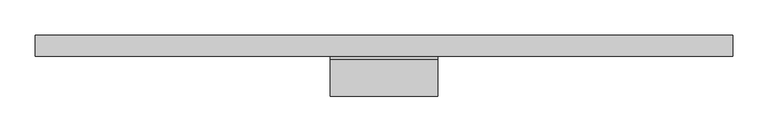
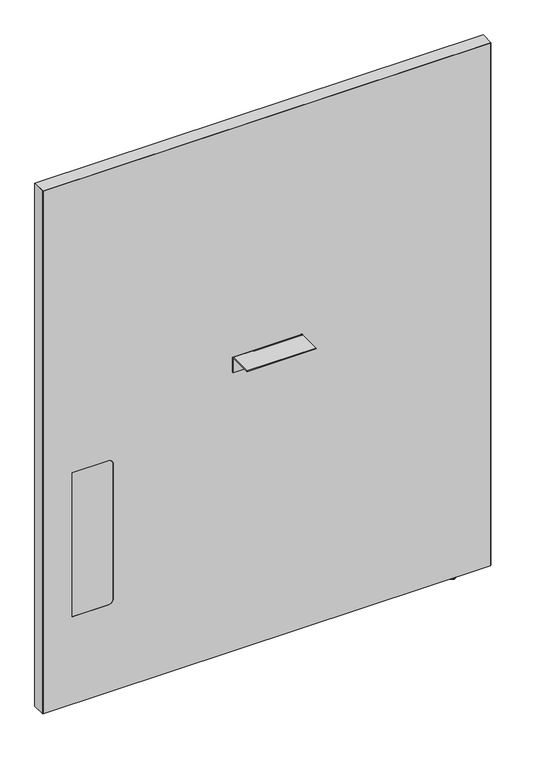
"""IFC4 building model written with IfcOpenShell, lengths in millimetres: furniture geometry, Steelcase - Answer Solution - Boundary Screen - Straight - Single Sided : 48H x 39W."""

from ifc_helpers import new_model, si_unit, point, frame, frame_2d, origin, place, context, project, spatial, polyline, circle_curve, ellipse_curve, trimmed, segment, composite_curve, outline, extrude, source, transform, mapped, element, save
from ifc_brep_helpers import plane_surface, cylinder_surface, revolved_surface, advanced_brep


def furniture_d116ad74(model_context):
    return source(origin(), model_context, "Body", "SolidModel", [
        extrude(outline(composite_curve([segment(polyline([(-86.8398151, 696.4680019), (-86.8398151, 698.5), (-34.9450855, 698.5)]), True, "CONTINUOUS"), segment(trimmed(circle_curve(frame_2d((-34.9450855, 693.2447477)), 5.2552523), [point((-34.9450855, 698.5))], [point((-29.6898332, 693.2447477))], False, "CARTESIAN"), True, "CONTINUOUS"), segment(polyline([(-29.6898332, 693.2447477), (-29.6898332, 660.4), (-31.7218162, 660.4), (-31.7218162, 693.0058743)]), True, "CONTINUOUS"), segment(trimmed(circle_curve(frame_2d((-35.1839438, 693.0058743)), 3.4621276), [point((-31.7218162, 693.0058743))], [point((-35.1839438, 696.4680019))], True, "CARTESIAN"), True, "CONTINUOUS"), segment(polyline([(-35.1839438, 696.4680019), (-86.8398151, 696.4680019)]), True, "CONTINUOUS")], self_intersect=False)), frame((-227.3808593, 0.0, 0.0), z_axis=(1.0, 0.0, 0.0), x_axis=(0.0, 1.0, 0.0)), (0.0, 0.0, 1.0), 152.4000969),
        advanced_brep(
        [(266.9286488, -23.7588726, 9.9059849), (266.9286488, -5.9309607, 9.9059849), (266.9286488, -14.8449166, 9.9059849), (266.9286488, -23.7588726, 2.9673238), (266.9286488, -5.9309607, 2.9673238), (266.9286488, -22.7915354, 2.9673238), (266.9286488, -6.8982978, 2.9673238), (266.9286488, -22.7915354, 1.6569081), (266.9286488, -6.8982978, 1.6569081), (266.9286488, -21.1346274, 0.0), (266.9286488, -8.5552059, 0.0), (266.9286488, -14.8449166, 0.0)],
        [
            (0, 1, circle_curve(frame((266.9286488, -14.8449166, 9.9059849), z_axis=(0.0, 0.0, 1.0), x_axis=(0.0, 1.0, 0.0)), 8.913956)),
            (1, 2),
            (2, 0),
            (1, 0, circle_curve(frame((266.9286488, -14.8449166, 9.9059849), z_axis=(0.0, 0.0, 1.0), x_axis=(0.0, 1.0, 0.0)), 8.913956)),
            (3, 4, circle_curve(frame((266.9286488, -14.8449166, 2.9673238), z_axis=(0.0, 0.0, 1.0), x_axis=(0.0, 1.0, 0.0)), 8.913956)),
            (4, 1),
            (0, 3),
            (4, 3, circle_curve(frame((266.9286488, -14.8449166, 2.9673238), z_axis=(0.0, 0.0, 1.0), x_axis=(0.0, 1.0, 0.0)), 8.913956)),
            (5, 6, circle_curve(frame((266.9286488, -14.8449166, 2.9673238), z_axis=(0.0, 0.0, 1.0), x_axis=(0.0, 1.0, 0.0)), 7.9466188)),
            (6, 4),
            (3, 5),
            (6, 5, circle_curve(frame((266.9286488, -14.8449166, 2.9673238), z_axis=(0.0, 0.0, 1.0), x_axis=(0.0, 1.0, 0.0)), 7.9466188)),
            (7, 8, circle_curve(frame((266.9286488, -14.8449166, 1.6569081), z_axis=(0.0, 0.0, 1.0), x_axis=(0.0, 1.0, 0.0)), 7.9466188)),
            (8, 6),
            (5, 7),
            (8, 7, circle_curve(frame((266.9286488, -14.8449166, 1.6569081), z_axis=(0.0, 0.0, 1.0), x_axis=(0.0, 1.0, 0.0)), 7.9466188)),
            (9, 10, circle_curve(frame((266.9286488, -14.8449166, 0.0), z_axis=(0.0, 0.0, 1.0), x_axis=(0.0, 1.0, 0.0)), 6.2897107)),
            (10, 8, circle_curve(frame((266.9286488, -8.5552059, 1.6569081), z_axis=(1.0, 0.0, 0.0), x_axis=(0.0, 1.0, 0.0)), 1.6569081)),
            (7, 9, circle_curve(frame((266.9286488, -21.1346274, 1.6569081), z_axis=(1.0, 0.0, 0.0), x_axis=(0.0, -1.0, 0.0)), 1.6569081)),
            (10, 9, circle_curve(frame((266.9286488, -14.8449166, 0.0), z_axis=(0.0, 0.0, 1.0), x_axis=(0.0, 1.0, 0.0)), 6.2897107)),
            (11, 10),
            (9, 11),
        ],
        [
            plane_surface(frame((266.9286488, -14.8449166, 9.9059849), z_axis=(0.0, 0.0, 1.0), x_axis=(0.0, 1.0, 0.0))),
            cylinder_surface(frame((266.9286488, -14.8449166, 9.9059849), z_axis=(0.0, 0.0, -1.0), x_axis=(0.0, 1.0, 0.0)), 8.913956),
            plane_surface(frame((266.9286488, -14.8449166, 2.9673238), z_axis=(0.0, 0.0, -1.0), x_axis=(0.0, 1.0, 0.0))),
            cylinder_surface(frame((266.9286488, -14.8449166, 9.9059849), z_axis=(0.0, 0.0, -1.0), x_axis=(0.0, 1.0, 0.0)), 7.9466188),
            revolved_surface(trimmed(ellipse_curve(frame((266.9286488, -8.5552059, 1.6569081), z_axis=(-1.0, 0.0, 0.0), x_axis=(0.0, 1.0, 0.0)), 1.6569081, 1.6569081), [point((266.9286488, -6.8982978, 1.6569081))], [point((266.9286488, -8.5552059, 0.0))], True, "CARTESIAN"), (266.9286488, -14.8449166, 9.9059849), (0.0, 0.0, -1.0)),
            plane_surface(frame((266.9286488, -14.8449166, 0.0), z_axis=(0.0, 0.0, -1.0), x_axis=(0.0, 1.0, 0.0))),
        ],
        [
            (0, [[1, 2, 3]]),
            (0, [[4, -3, -2]]),
            (1, [[5, 6, -1, 7]]),
            (1, [[8, -7, -4, -6]]),
            (2, [[9, 10, -5, 11]]),
            (2, [[12, -11, -8, -10]]),
            (3, [[13, 14, -9, 15]]),
            (3, [[16, -15, -12, -14]]),
            (4, [[17, 18, -13, 19]]),
            (4, [[20, -19, -16, -18]]),
            (5, [[21, -17, 22]]),
            (5, [[-22, -20, -21]]),
        ],
    ),
        advanced_brep(
        [(343.0780168, 0.0, 1229.142118), (343.0780168, 0.0, 9.9059849), (-645.4902221, 0.0, 9.9059849), (-645.4902221, 0.0, 1229.142118), (343.0780168, -29.6898332, 1229.142118), (-645.4902221, -29.6898332, 1229.142118), (-645.4902221, -29.6898332, 9.9059849), (343.0780168, -29.6898332, 9.9059849), (-501.1463873, -29.6898332, 549.6162029), (-490.9863873, -29.6898332, 539.4562029), (-490.9863873, -29.6898332, 223.9362137), (-501.1463873, -29.6898332, 213.7762137), (-580.800285, -29.6898332, 213.7762137), (-580.800285, -29.6898332, 549.6162029), (-580.800285, -29.0550397, 549.6162029), (-501.1463873, -29.0550397, 549.6162029), (-580.800285, -29.0550397, 213.7762137), (-501.1463873, -29.0550397, 213.7762137), (-490.9863873, -29.0550397, 223.9362137), (-490.9863873, -29.0550397, 539.4562029)],
        [
            (0, 1),
            (1, 2),
            (2, 3),
            (3, 0),
            (4, 5),
            (5, 6),
            (6, 7),
            (7, 4),
            (8, 9, circle_curve(frame((-501.1463873, -29.6898332, 539.4562029), z_axis=(0.0, 1.0, 0.0), x_axis=(0.0, 0.0, 1.0)), 10.16)),
            (9, 10),
            (10, 11, circle_curve(frame((-501.1463873, -29.6898332, 223.9362137), z_axis=(0.0, 1.0, 0.0), x_axis=(0.0, 0.0, 1.0)), 10.16)),
            (11, 12),
            (12, 13),
            (13, 8),
            (0, 4),
            (7, 1),
            (6, 2),
            (5, 3),
            (13, 14),
            (14, 15),
            (15, 8),
            (12, 16),
            (16, 14),
            (11, 17),
            (17, 16),
            (10, 18),
            (18, 17, circle_curve(frame((-501.1463873, -29.0550397, 223.9362137), z_axis=(0.0, 1.0, 0.0), x_axis=(0.0, 0.0, 1.0)), 10.16)),
            (9, 19),
            (19, 18),
            (15, 19, circle_curve(frame((-501.1463873, -29.0550397, 539.4562029), z_axis=(0.0, 1.0, 0.0), x_axis=(0.0, 0.0, 1.0)), 10.16)),
        ],
        [
            plane_surface(frame((343.0780168, 0.0, 1229.142118), z_axis=(0.0, 1.0, 0.0), x_axis=(0.0, 0.0, -1.0))),
            plane_surface(frame((343.0780168, -29.6898332, 1229.142118), z_axis=(0.0, -1.0, 0.0), x_axis=(0.0, 0.0, 1.0))),
            plane_surface(frame((343.0780168, 0.0, 1229.142118), z_axis=(1.0, 0.0, 0.0), x_axis=(0.0, -1.0, 0.0))),
            plane_surface(frame((343.0780168, 0.0, 9.9059849), z_axis=(0.0, 0.0, -1.0), x_axis=(0.0, -1.0, 0.0))),
            plane_surface(frame((-645.4902221, 0.0, 9.9059849), z_axis=(-1.0, 0.0, 0.0), x_axis=(0.0, -1.0, 0.0))),
            plane_surface(frame((-645.4902221, 0.0, 1229.142118), z_axis=(0.0, 0.0, 1.0), x_axis=(0.0, -1.0, 0.0))),
            plane_surface(frame((-501.1463873, 0.0, 549.6162029), z_axis=(0.0, 0.0, -1.0), x_axis=(0.0, -1.0, 0.0))),
            plane_surface(frame((-580.800285, 0.0, 549.6162029), z_axis=(1.0, 0.0, 0.0), x_axis=(0.0, -1.0, 0.0))),
            plane_surface(frame((-580.800285, 0.0, 213.7762137), z_axis=(0.0, 0.0, 1.0), x_axis=(0.0, -1.0, 0.0))),
            revolved_surface(polyline([(-501.1463873, -29.6898332, 234.0962137), (-501.1463873, -29.0550397, 234.0962137)]), (-501.1463873, -29.6898332, 223.9362137), (0.0, -1.0, 0.0)),
            plane_surface(frame((-490.9863873, 0.0, 223.9362137), z_axis=(-1.0, 0.0, 0.0), x_axis=(0.0, -1.0, 0.0))),
            revolved_surface(polyline([(-501.1463873, -29.6898332, 549.6162029), (-501.1463873, -29.0550397, 549.6162029)]), (-501.1463873, -29.6898332, 539.4562029), (0.0, -1.0, 0.0)),
            plane_surface(frame((-490.9863873, -29.0550397, 629.172953), z_axis=(0.0, -1.0, 0.0), x_axis=(0.0, 0.0, 1.0))),
        ],
        [
            (0, [[1, 2, 3, 4]]),
            (1, [[5, 6, 7, 8], [9, 10, 11, 12, 13, 14]]),
            (2, [[-1, 15, -8, 16]]),
            (3, [[-2, -16, -7, 17]]),
            (4, [[-3, -17, -6, 18]]),
            (5, [[-4, -18, -5, -15]]),
            (6, [[-14, 19, 20, 21]]),
            (7, [[-13, 22, 23, -19]]),
            (8, [[-12, 24, 25, -22]]),
            (9, [[-11, 26, 27, -24]]),
            (10, [[-10, 28, 29, -26]]),
            (11, [[-9, -21, 30, -28]]),
            (12, [[-20, -23, -25, -27, -29, -30]]),
        ],
    ),
        extrude(outline(composite_curve([segment(polyline([(549.6162029, -501.1463873), (549.6162029, -580.800285), (213.7762137, -580.800285), (213.7762137, -501.1463873)]), True, "CONTINUOUS"), segment(trimmed(circle_curve(frame_2d((223.9362137, -501.1463873)), 10.16), [point((213.7762137, -501.1463873))], [point((223.9362137, -490.9863873))], False, "CARTESIAN"), True, "CONTINUOUS"), segment(polyline([(223.9362137, -490.9863873), (539.4562029, -490.9863873)]), True, "CONTINUOUS"), segment(trimmed(circle_curve(frame_2d((539.4562029, -501.1463873)), 10.16), [point((539.4562029, -490.9863873))], [point((549.6162029, -501.1463873))], False, "CARTESIAN"), True, "CONTINUOUS")], self_intersect=False)), frame((0.0, -29.6898332, 0.0), z_axis=(0.0, 1.0, 0.0), x_axis=(0.0, 0.0, 1.0)), (0.0, 0.0, 1.0), 0.6347935),
        extrude(outline(polyline([(1230.122, 344.1191891), (1230.122, -646.4808109), (9.9059849, -646.4808109), (9.9059849, -645.4902221), (1229.142118, -645.4902221), (1229.142118, 343.0780168), (9.9059849, 343.0780168), (9.9059849, 344.1191891), (1230.122, 344.1191891)])), frame((0.0, -29.6898332, 0.0), z_axis=(0.0, 1.0, 0.0), x_axis=(0.0, 0.0, 1.0)), (0.0, 0.0, 1.0), 29.6898332),
    ])


if __name__ == "__main__":
    model = new_model("IFC4")
    model_context = context("Model", 3, world=origin())
    ifc_project = project(units=[si_unit("LENGTHUNIT", "METRE", prefix="MILLI")], contexts=[model_context])
    site = spatial("IfcSite", under=ifc_project)
    building = spatial("IfcBuilding", under=site)
    placement = place(None, origin())
    furniture_shape = furniture_d116ad74(model_context)
    element("IfcFurniture", 1, ObjectType="Steelcase - Answer Solution - Boundary Screen - Straight - Single Sided : 48H x 39W", at=placement, inside=building, context=model_context, shape_type="MappedRepresentation", body=[
        mapped(furniture_shape, transform((0.0, 0.0, 0.0), x_axis=(1.0, 0.0, 0.0), y_axis=(0.0, 1.0, 0.0), z_axis=(0.0, 0.0, 1.0))),
    ])
    save(model, "model.ifc")
